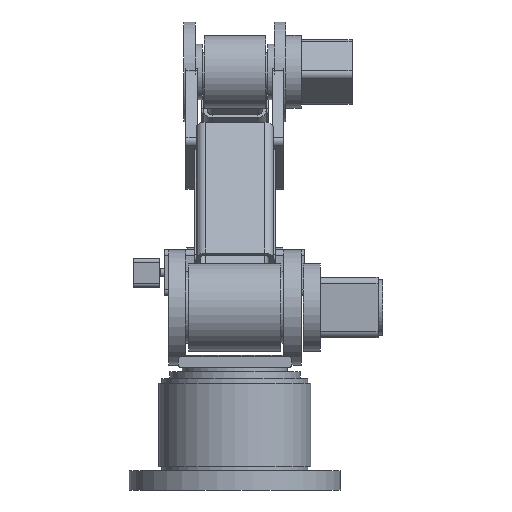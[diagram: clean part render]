
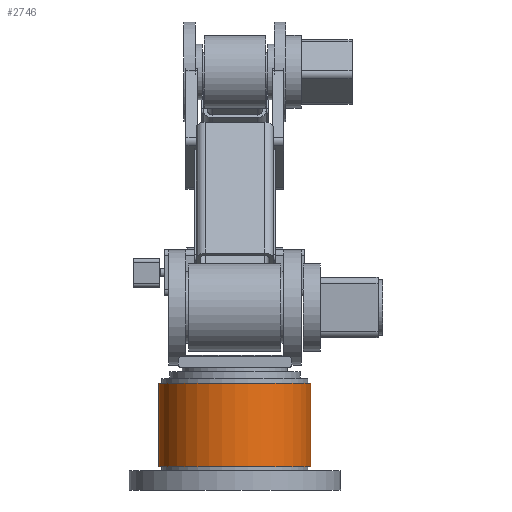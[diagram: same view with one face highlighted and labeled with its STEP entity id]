
A CAD part, left-side view. The second image highlights one B-rep face of the part: STEP entity #2746.
In plain terms, the highlighted cylindrical face has radius 79 mm (diameter 158 mm), a full revolution.
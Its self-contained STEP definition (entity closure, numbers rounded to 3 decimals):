
#2746 = ADVANCED_FACE('',(#2747),#2760,.T.);
#2747 = FACE_BOUND('',#2748,.T.);
#2748 = EDGE_LOOP('',(#2749,#2783,#2806,#2833));
#2749 = ORIENTED_EDGE('',*,*,#2750,.F.);
#2750 = EDGE_CURVE('',#2751,#2751,#2753,.T.);
#2751 = VERTEX_POINT('',#2752);
#2752 = CARTESIAN_POINT('',(79.,0.,111.));
#2753 = SURFACE_CURVE('',#2754,(#2759,#2771),.PCURVE_S1.);
#2754 = CIRCLE('',#2755,79.);
#2755 = AXIS2_PLACEMENT_3D('',#2756,#2757,#2758);
#2756 = CARTESIAN_POINT('',(0.,0.,111.));
#2757 = DIRECTION('',(0.,0.,1.));
#2758 = DIRECTION('',(1.,0.,-0.));
#2759 = PCURVE('',#2760,#2765);
#2760 = CYLINDRICAL_SURFACE('',#2761,79.);
#2761 = AXIS2_PLACEMENT_3D('',#2762,#2763,#2764);
#2762 = CARTESIAN_POINT('',(0.,0.,24.));
#2763 = DIRECTION('',(0.,0.,1.));
#2764 = DIRECTION('',(1.,0.,-0.));
#2765 = DEFINITIONAL_REPRESENTATION('',(#2766),#2770);
#2766 = LINE('',#2767,#2768);
#2767 = CARTESIAN_POINT('',(0.,87.));
#2768 = VECTOR('',#2769,1.);
#2769 = DIRECTION('',(1.,0.));
#2770 = ( GEOMETRIC_REPRESENTATION_CONTEXT(2) 
PARAMETRIC_REPRESENTATION_CONTEXT() REPRESENTATION_CONTEXT('2D SPACE',''
  ) );
#2771 = PCURVE('',#2772,#2777);
#2772 = PLANE('',#2773);
#2773 = AXIS2_PLACEMENT_3D('',#2774,#2775,#2776);
#2774 = CARTESIAN_POINT('',(0.,0.,111.));
#2775 = DIRECTION('',(0.,0.,1.));
#2776 = DIRECTION('',(1.,0.,-0.));
#2777 = DEFINITIONAL_REPRESENTATION('',(#2778),#2782);
#2778 = CIRCLE('',#2779,79.);
#2779 = AXIS2_PLACEMENT_2D('',#2780,#2781);
#2780 = CARTESIAN_POINT('',(0.,0.));
#2781 = DIRECTION('',(1.,0.));
#2782 = ( GEOMETRIC_REPRESENTATION_CONTEXT(2) 
PARAMETRIC_REPRESENTATION_CONTEXT() REPRESENTATION_CONTEXT('2D SPACE',''
  ) );
#2783 = ORIENTED_EDGE('',*,*,#2784,.F.);
#2784 = EDGE_CURVE('',#2785,#2751,#2787,.T.);
#2785 = VERTEX_POINT('',#2786);
#2786 = CARTESIAN_POINT('',(79.,0.,24.));
#2787 = SEAM_CURVE('',#2788,(#2792,#2799),.PCURVE_S1.);
#2788 = LINE('',#2789,#2790);
#2789 = CARTESIAN_POINT('',(79.,0.,24.));
#2790 = VECTOR('',#2791,1.);
#2791 = DIRECTION('',(0.,0.,1.));
#2792 = PCURVE('',#2760,#2793);
#2793 = DEFINITIONAL_REPRESENTATION('',(#2794),#2798);
#2794 = LINE('',#2795,#2796);
#2795 = CARTESIAN_POINT('',(6.283,-0.));
#2796 = VECTOR('',#2797,1.);
#2797 = DIRECTION('',(0.,1.));
#2798 = ( GEOMETRIC_REPRESENTATION_CONTEXT(2) 
PARAMETRIC_REPRESENTATION_CONTEXT() REPRESENTATION_CONTEXT('2D SPACE',''
  ) );
#2799 = PCURVE('',#2760,#2800);
#2800 = DEFINITIONAL_REPRESENTATION('',(#2801),#2805);
#2801 = LINE('',#2802,#2803);
#2802 = CARTESIAN_POINT('',(0.,-0.));
#2803 = VECTOR('',#2804,1.);
#2804 = DIRECTION('',(0.,1.));
#2805 = ( GEOMETRIC_REPRESENTATION_CONTEXT(2) 
PARAMETRIC_REPRESENTATION_CONTEXT() REPRESENTATION_CONTEXT('2D SPACE',''
  ) );
#2806 = ORIENTED_EDGE('',*,*,#2807,.T.);
#2807 = EDGE_CURVE('',#2785,#2785,#2808,.T.);
#2808 = SURFACE_CURVE('',#2809,(#2814,#2821),.PCURVE_S1.);
#2809 = CIRCLE('',#2810,79.);
#2810 = AXIS2_PLACEMENT_3D('',#2811,#2812,#2813);
#2811 = CARTESIAN_POINT('',(0.,0.,24.));
#2812 = DIRECTION('',(0.,0.,1.));
#2813 = DIRECTION('',(1.,0.,-0.));
#2814 = PCURVE('',#2760,#2815);
#2815 = DEFINITIONAL_REPRESENTATION('',(#2816),#2820);
#2816 = LINE('',#2817,#2818);
#2817 = CARTESIAN_POINT('',(0.,0.));
#2818 = VECTOR('',#2819,1.);
#2819 = DIRECTION('',(1.,0.));
#2820 = ( GEOMETRIC_REPRESENTATION_CONTEXT(2) 
PARAMETRIC_REPRESENTATION_CONTEXT() REPRESENTATION_CONTEXT('2D SPACE',''
  ) );
#2821 = PCURVE('',#2822,#2827);
#2822 = PLANE('',#2823);
#2823 = AXIS2_PLACEMENT_3D('',#2824,#2825,#2826);
#2824 = CARTESIAN_POINT('',(0.,0.,24.));
#2825 = DIRECTION('',(0.,0.,1.));
#2826 = DIRECTION('',(1.,0.,-0.));
#2827 = DEFINITIONAL_REPRESENTATION('',(#2828),#2832);
#2828 = CIRCLE('',#2829,79.);
#2829 = AXIS2_PLACEMENT_2D('',#2830,#2831);
#2830 = CARTESIAN_POINT('',(0.,0.));
#2831 = DIRECTION('',(1.,0.));
#2832 = ( GEOMETRIC_REPRESENTATION_CONTEXT(2) 
PARAMETRIC_REPRESENTATION_CONTEXT() REPRESENTATION_CONTEXT('2D SPACE',''
  ) );
#2833 = ORIENTED_EDGE('',*,*,#2784,.T.);
